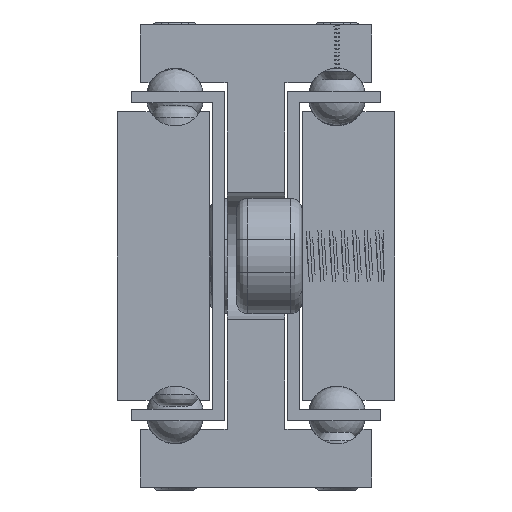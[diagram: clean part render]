
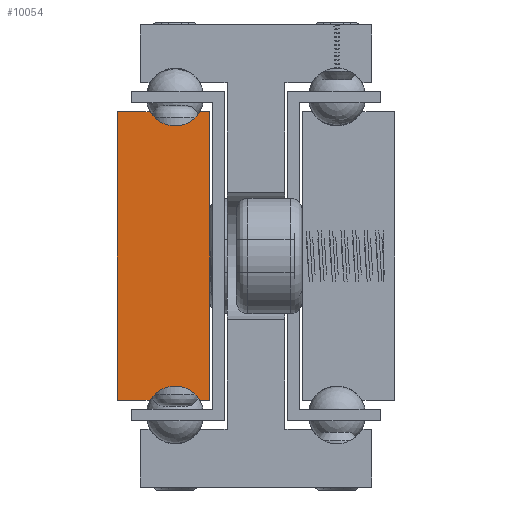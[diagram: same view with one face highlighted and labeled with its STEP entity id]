
A CAD part, front view. The second image highlights one B-rep face of the part: STEP entity #10054.
In plain terms, the highlighted planar face has unit normal (0, -1, 0).
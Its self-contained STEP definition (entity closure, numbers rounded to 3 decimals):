
#600=LINE('',#14156,#1530);
#604=LINE('',#14164,#1534);
#608=LINE('',#14176,#1538);
#611=LINE('',#14182,#1541);
#614=LINE('',#14188,#1544);
#618=LINE('',#14199,#1548);
#1530=VECTOR('',#11606,1.);
#1534=VECTOR('',#11612,1.);
#1538=VECTOR('',#11624,1.);
#1541=VECTOR('',#11629,1.);
#1544=VECTOR('',#11634,1.);
#1548=VECTOR('',#11646,1.);
#2466=PLANE('',#10784);
#3096=FACE_OUTER_BOUND('',#3732,.T.);
#3732=EDGE_LOOP('',(#7264,#7265,#7266,#7267,#7268,#7269,#7270,#7271));
#4560=CIRCLE('',#10775,2.5);
#4562=CIRCLE('',#10781,2.5);
#4810=VERTEX_POINT('',#14154);
#4811=VERTEX_POINT('',#14155);
#4814=VERTEX_POINT('',#14163);
#4816=VERTEX_POINT('',#14169);
#4818=VERTEX_POINT('',#14175);
#4820=VERTEX_POINT('',#14181);
#4822=VERTEX_POINT('',#14187);
#4824=VERTEX_POINT('',#14193);
#5848=EDGE_CURVE('',#4810,#4811,#600,.T.);
#5852=EDGE_CURVE('',#4811,#4814,#604,.T.);
#5855=EDGE_CURVE('',#4814,#4816,#4560,.T.);
#5858=EDGE_CURVE('',#4816,#4818,#608,.T.);
#5861=EDGE_CURVE('',#4818,#4820,#611,.T.);
#5864=EDGE_CURVE('',#4820,#4822,#614,.T.);
#5867=EDGE_CURVE('',#4822,#4824,#4562,.T.);
#5870=EDGE_CURVE('',#4824,#4810,#618,.T.);
#7264=ORIENTED_EDGE('',*,*,#5870,.T.);
#7265=ORIENTED_EDGE('',*,*,#5848,.T.);
#7266=ORIENTED_EDGE('',*,*,#5852,.T.);
#7267=ORIENTED_EDGE('',*,*,#5855,.T.);
#7268=ORIENTED_EDGE('',*,*,#5858,.T.);
#7269=ORIENTED_EDGE('',*,*,#5861,.T.);
#7270=ORIENTED_EDGE('',*,*,#5864,.T.);
#7271=ORIENTED_EDGE('',*,*,#5867,.T.);
#10054=ADVANCED_FACE('',(#3096),#2466,.F.);
#10775=AXIS2_PLACEMENT_3D('',#14170,#11617,#11618);
#10781=AXIS2_PLACEMENT_3D('',#14194,#11639,#11640);
#10784=AXIS2_PLACEMENT_3D('',#14201,#11648,#11649);
#11606=DIRECTION('',(0.,0.,-1.));
#11612=DIRECTION('',(1.,0.,0.));
#11617=DIRECTION('center_axis',(0.,1.,0.));
#11618=DIRECTION('ref_axis',(-0.866,0.,0.5));
#11624=DIRECTION('',(1.,0.,0.));
#11629=DIRECTION('',(0.,0.,1.));
#11634=DIRECTION('',(-1.,0.,0.));
#11639=DIRECTION('center_axis',(0.,1.,0.));
#11640=DIRECTION('ref_axis',(0.866,0.,-0.5));
#11646=DIRECTION('',(-1.,0.,0.));
#11648=DIRECTION('center_axis',(0.,1.,0.));
#11649=DIRECTION('ref_axis',(1.,0.,0.));
#14154=CARTESIAN_POINT('',(1923.867,1066.493,387.748));
#14155=CARTESIAN_POINT('',(1923.867,1066.493,362.748));
#14156=CARTESIAN_POINT('',(1923.867,1066.493,387.748));
#14163=CARTESIAN_POINT('',(1926.702,1066.493,362.748));
#14164=CARTESIAN_POINT('',(1923.867,1066.493,362.748));
#14169=CARTESIAN_POINT('',(1931.032,1066.493,362.748));
#14170=CARTESIAN_POINT('Origin',(1928.867,1066.493,361.498));
#14175=CARTESIAN_POINT('',(1931.867,1066.493,362.748));
#14176=CARTESIAN_POINT('',(1931.032,1066.493,362.748));
#14181=CARTESIAN_POINT('',(1931.867,1066.493,387.748));
#14182=CARTESIAN_POINT('',(1931.867,1066.493,362.748));
#14187=CARTESIAN_POINT('',(1931.032,1066.493,387.748));
#14188=CARTESIAN_POINT('',(1931.867,1066.493,387.748));
#14193=CARTESIAN_POINT('',(1926.702,1066.493,387.748));
#14194=CARTESIAN_POINT('Origin',(1928.867,1066.493,388.998));
#14199=CARTESIAN_POINT('',(1926.702,1066.493,387.748));
#14201=CARTESIAN_POINT('Origin',(1927.854,1066.493,375.248));
